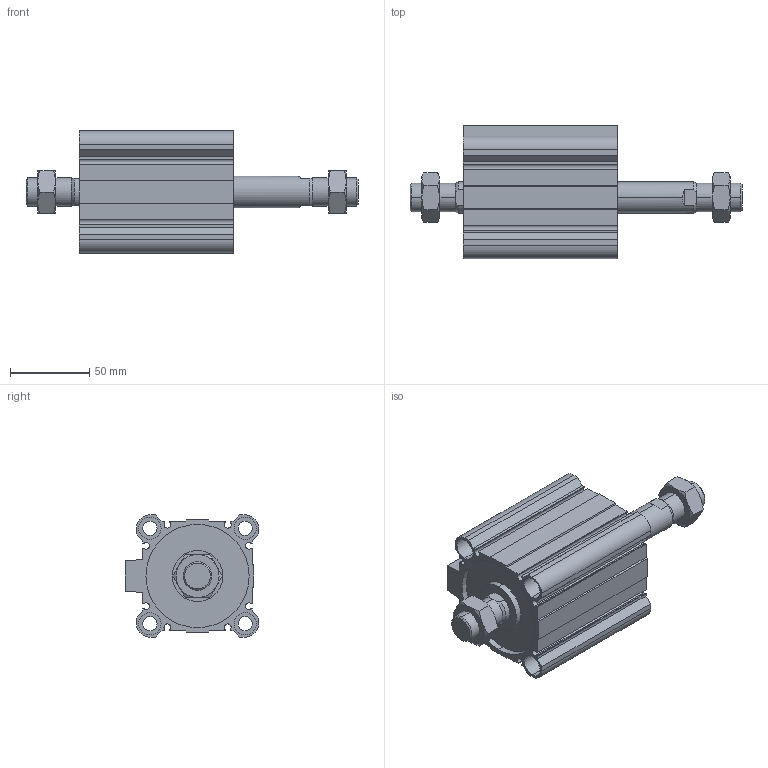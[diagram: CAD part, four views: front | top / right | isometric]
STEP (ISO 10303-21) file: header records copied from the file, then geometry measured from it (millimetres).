
FILE_DESCRIPTION (( 'STEP AP203' ), '1' );
FILE_NAME ('CCMB63-45M-P.STEP', '2020-08-10T11:51:15', ( '' ), ( '' ), 'SwSTEP 2.0', 'SolidWorks 2019', '' );
FILE_SCHEMA (( 'CONFIG_CONTROL_DESIGN' ));
Length unit declared in the file: millimetre
Products named in the file (1): CCMB63-45M-P
Bounding box: 209 x 84 x 77 mm (x, y, z)
Volume: 365884.1 mm3; surface area: 113248.9 mm2
Topology: 4 solids, 4 shells, 232 faces, 570 edges, 364 vertices
Faces by surface type: plane 110, cylinder 78, cone 44
Entity records: 7569 total; most frequent: CARTESIAN_POINT 1939, DIRECTION 1176, ORIENTED_EDGE 1140, EDGE_CURVE 570, AXIS2_PLACEMENT_3D 437, VERTEX_POINT 364, LINE 302, VECTOR 302
